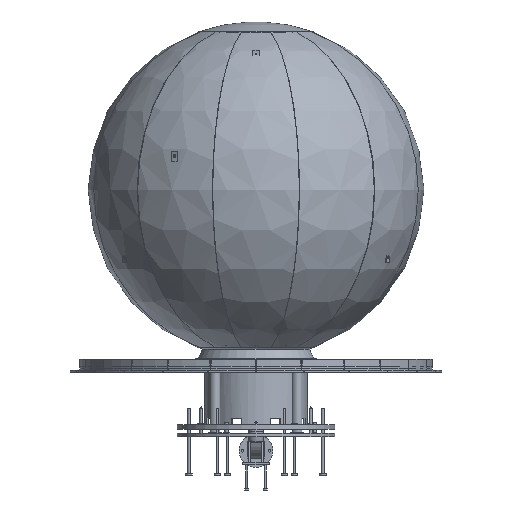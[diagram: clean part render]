
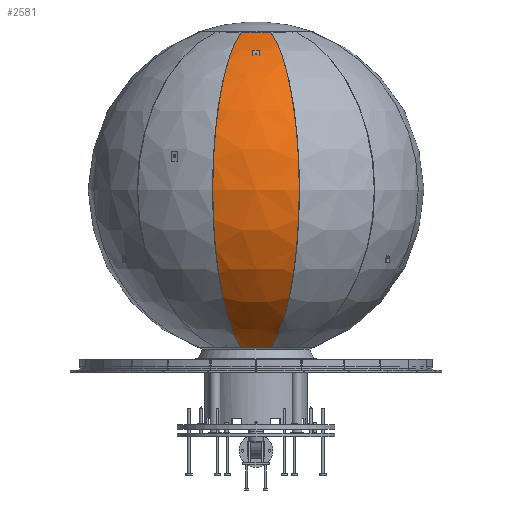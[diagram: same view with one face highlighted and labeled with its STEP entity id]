
A CAD part, left-side view. The second image highlights one B-rep face of the part: STEP entity #2581.
In plain terms, the highlighted spherical face has radius 1000 mm.
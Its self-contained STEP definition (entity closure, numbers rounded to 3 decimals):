
#2581 = ADVANCED_FACE('',(#2582),#2597,.T.);
#2582 = FACE_BOUND('',#2583,.F.);
#2583 = EDGE_LOOP('',(#2584,#2620,#2649,#2678));
#2584 = ORIENTED_EDGE('',*,*,#2585,.T.);
#2585 = EDGE_CURVE('',#2586,#2588,#2590,.T.);
#2586 = VERTEX_POINT('',#2587);
#2587 = CARTESIAN_POINT('',(-330.366,88.521,
    1939.693));
#2588 = VERTEX_POINT('',#2589);
#2589 = CARTESIAN_POINT('',(-330.366,-88.521,
    1939.693));
#2590 = SURFACE_CURVE('',#2591,(#2596,#2608),.PCURVE_S1.);
#2591 = CIRCLE('',#2592,342.02);
#2592 = AXIS2_PLACEMENT_3D('',#2593,#2594,#2595);
#2593 = CARTESIAN_POINT('',(0.,0.,1939.693));
#2594 = DIRECTION('',(0.,0.,1.));
#2595 = DIRECTION('',(-0.966,0.259,0.));
#2596 = PCURVE('',#2597,#2602);
#2597 = SPHERICAL_SURFACE('',#2598,1000.);
#2598 = AXIS2_PLACEMENT_3D('',#2599,#2600,#2601);
#2599 = CARTESIAN_POINT('',(0.,0.,1000.)
  );
#2600 = DIRECTION('',(0.,-0.,-1.));
#2601 = DIRECTION('',(-0.966,0.259,0.));
#2602 = DEFINITIONAL_REPRESENTATION('',(#2603),#2607);
#2603 = LINE('',#2604,#2605);
#2604 = CARTESIAN_POINT('',(-0.,-1.222));
#2605 = VECTOR('',#2606,1.);
#2606 = DIRECTION('',(-1.,0.));
#2607 = ( GEOMETRIC_REPRESENTATION_CONTEXT(2) 
PARAMETRIC_REPRESENTATION_CONTEXT() REPRESENTATION_CONTEXT('2D SPACE',''
  ) );
#2608 = PCURVE('',#2609,#2614);
#2609 = CONICAL_SURFACE('',#2610,340.31,0.349);
#2610 = AXIS2_PLACEMENT_3D('',#2611,#2612,#2613);
#2611 = CARTESIAN_POINT('',(0.,0.,1934.994));
#2612 = DIRECTION('',(0.,0.,1.));
#2613 = DIRECTION('',(-0.966,0.259,0.));
#2614 = DEFINITIONAL_REPRESENTATION('',(#2615),#2619);
#2615 = LINE('',#2616,#2617);
#2616 = CARTESIAN_POINT('',(0.,4.698));
#2617 = VECTOR('',#2618,1.);
#2618 = DIRECTION('',(1.,0.));
#2619 = ( GEOMETRIC_REPRESENTATION_CONTEXT(2) 
PARAMETRIC_REPRESENTATION_CONTEXT() REPRESENTATION_CONTEXT('2D SPACE',''
  ) );
#2620 = ORIENTED_EDGE('',*,*,#2621,.T.);
#2621 = EDGE_CURVE('',#2588,#2622,#2624,.T.);
#2622 = VERTEX_POINT('',#2623);
#2623 = CARTESIAN_POINT('',(-330.366,-88.521,
    60.307));
#2624 = SURFACE_CURVE('',#2625,(#2630,#2637),.PCURVE_S1.);
#2625 = CIRCLE('',#2626,1000.);
#2626 = AXIS2_PLACEMENT_3D('',#2627,#2628,#2629);
#2627 = CARTESIAN_POINT('',(0.,0.,1000.
    ));
#2628 = DIRECTION('',(0.259,-0.966,0.)
  );
#2629 = DIRECTION('',(-0.33,-0.089,0.94
    ));
#2630 = PCURVE('',#2597,#2631);
#2631 = DEFINITIONAL_REPRESENTATION('',(#2632),#2636);
#2632 = LINE('',#2633,#2634);
#2633 = CARTESIAN_POINT('',(-0.524,-1.222));
#2634 = VECTOR('',#2635,1.);
#2635 = DIRECTION('',(-0.,1.));
#2636 = ( GEOMETRIC_REPRESENTATION_CONTEXT(2) 
PARAMETRIC_REPRESENTATION_CONTEXT() REPRESENTATION_CONTEXT('2D SPACE',''
  ) );
#2637 = PCURVE('',#2638,#2643);
#2638 = PLANE('',#2639);
#2639 = AXIS2_PLACEMENT_3D('',#2640,#2641,#2642);
#2640 = CARTESIAN_POINT('',(-698.88,-187.264,1000.));
#2641 = DIRECTION('',(0.259,-0.966,0.));
#2642 = DIRECTION('',(0.,0.,1.));
#2643 = DEFINITIONAL_REPRESENTATION('',(#2644),#2648);
#2644 = CIRCLE('',#2645,1000.);
#2645 = AXIS2_PLACEMENT_2D('',#2646,#2647);
#2646 = CARTESIAN_POINT('',(0.,-723.533));
#2647 = DIRECTION('',(0.94,0.342));
#2648 = ( GEOMETRIC_REPRESENTATION_CONTEXT(2) 
PARAMETRIC_REPRESENTATION_CONTEXT() REPRESENTATION_CONTEXT('2D SPACE',''
  ) );
#2649 = ORIENTED_EDGE('',*,*,#2650,.F.);
#2650 = EDGE_CURVE('',#2651,#2622,#2653,.T.);
#2651 = VERTEX_POINT('',#2652);
#2652 = CARTESIAN_POINT('',(-330.366,88.521,
    60.307));
#2653 = SURFACE_CURVE('',#2654,(#2659,#2666),.PCURVE_S1.);
#2654 = CIRCLE('',#2655,342.02);
#2655 = AXIS2_PLACEMENT_3D('',#2656,#2657,#2658);
#2656 = CARTESIAN_POINT('',(0.,0.,60.307));
#2657 = DIRECTION('',(0.,0.,1.));
#2658 = DIRECTION('',(-0.966,0.259,0.));
#2659 = PCURVE('',#2597,#2660);
#2660 = DEFINITIONAL_REPRESENTATION('',(#2661),#2665);
#2661 = LINE('',#2662,#2663);
#2662 = CARTESIAN_POINT('',(-0.,1.222));
#2663 = VECTOR('',#2664,1.);
#2664 = DIRECTION('',(-1.,0.));
#2665 = ( GEOMETRIC_REPRESENTATION_CONTEXT(2) 
PARAMETRIC_REPRESENTATION_CONTEXT() REPRESENTATION_CONTEXT('2D SPACE',''
  ) );
#2666 = PCURVE('',#2667,#2672);
#2667 = CONICAL_SURFACE('',#2668,342.02,0.349);
#2668 = AXIS2_PLACEMENT_3D('',#2669,#2670,#2671);
#2669 = CARTESIAN_POINT('',(0.,0.,60.307));
#2670 = DIRECTION('',(-0.,-0.,-1.));
#2671 = DIRECTION('',(-0.966,0.259,0.));
#2672 = DEFINITIONAL_REPRESENTATION('',(#2673),#2677);
#2673 = LINE('',#2674,#2675);
#2674 = CARTESIAN_POINT('',(-0.,-0.));
#2675 = VECTOR('',#2676,1.);
#2676 = DIRECTION('',(-1.,-0.));
#2677 = ( GEOMETRIC_REPRESENTATION_CONTEXT(2) 
PARAMETRIC_REPRESENTATION_CONTEXT() REPRESENTATION_CONTEXT('2D SPACE',''
  ) );
#2678 = ORIENTED_EDGE('',*,*,#2679,.F.);
#2679 = EDGE_CURVE('',#2586,#2651,#2680,.T.);
#2680 = SURFACE_CURVE('',#2681,(#2686,#2693),.PCURVE_S1.);
#2681 = CIRCLE('',#2682,1000.);
#2682 = AXIS2_PLACEMENT_3D('',#2683,#2684,#2685);
#2683 = CARTESIAN_POINT('',(0.,0.,1000.)
  );
#2684 = DIRECTION('',(-0.259,-0.966,0.
    ));
#2685 = DIRECTION('',(-0.33,0.089,0.94)
  );
#2686 = PCURVE('',#2597,#2687);
#2687 = DEFINITIONAL_REPRESENTATION('',(#2688),#2692);
#2688 = LINE('',#2689,#2690);
#2689 = CARTESIAN_POINT('',(-0.,-1.222));
#2690 = VECTOR('',#2691,1.);
#2691 = DIRECTION('',(-0.,1.));
#2692 = ( GEOMETRIC_REPRESENTATION_CONTEXT(2) 
PARAMETRIC_REPRESENTATION_CONTEXT() REPRESENTATION_CONTEXT('2D SPACE',''
  ) );
#2693 = PCURVE('',#2694,#2699);
#2694 = PLANE('',#2695);
#2695 = AXIS2_PLACEMENT_3D('',#2696,#2697,#2698);
#2696 = CARTESIAN_POINT('',(-698.88,187.264,1000.));
#2697 = DIRECTION('',(-0.259,-0.966,0.));
#2698 = DIRECTION('',(0.,0.,1.));
#2699 = DEFINITIONAL_REPRESENTATION('',(#2700),#2704);
#2700 = CIRCLE('',#2701,1000.);
#2701 = AXIS2_PLACEMENT_2D('',#2702,#2703);
#2702 = CARTESIAN_POINT('',(0.,-723.533));
#2703 = DIRECTION('',(0.94,0.342));
#2704 = ( GEOMETRIC_REPRESENTATION_CONTEXT(2) 
PARAMETRIC_REPRESENTATION_CONTEXT() REPRESENTATION_CONTEXT('2D SPACE',''
  ) );
